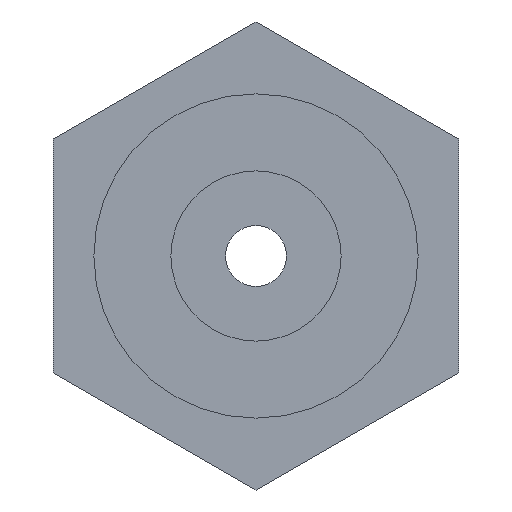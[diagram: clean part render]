
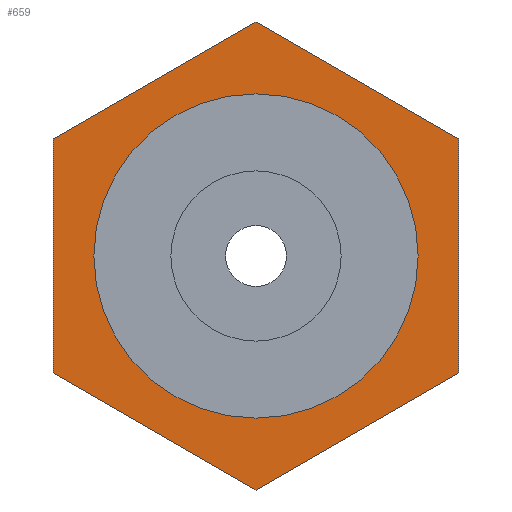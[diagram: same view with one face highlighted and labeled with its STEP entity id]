
A CAD part, front view. The second image highlights one B-rep face of the part: STEP entity #659.
In plain terms, the highlighted planar face has unit normal (0, -1, 0).
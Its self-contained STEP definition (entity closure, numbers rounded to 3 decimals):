
#360 = CYLINDRICAL_SURFACE('',#361,3.);
#361 = AXIS2_PLACEMENT_3D('',#362,#363,#364);
#362 = CARTESIAN_POINT('',(0.,70.,88.));
#363 = DIRECTION('',(0.,-1.,0.));
#364 = DIRECTION('',(0.,0.,-1.));
#432 = VERTEX_POINT('',#433);
#433 = CARTESIAN_POINT('',(0.,71.,85.));
#454 = EDGE_CURVE('',#432,#432,#455,.T.);
#455 = SURFACE_CURVE('',#456,(#461,#468),.PCURVE_S1.);
#456 = CIRCLE('',#457,3.);
#457 = AXIS2_PLACEMENT_3D('',#458,#459,#460);
#458 = CARTESIAN_POINT('',(0.,71.,88.));
#459 = DIRECTION('',(0.,-1.,0.));
#460 = DIRECTION('',(0.,0.,-1.));
#461 = PCURVE('',#360,#462);
#462 = DEFINITIONAL_REPRESENTATION('',(#463),#467);
#463 = LINE('',#464,#465);
#464 = CARTESIAN_POINT('',(-6.283,-1.));
#465 = VECTOR('',#466,1.);
#466 = DIRECTION('',(1.,-0.));
#467 = ( GEOMETRIC_REPRESENTATION_CONTEXT(2) 
PARAMETRIC_REPRESENTATION_CONTEXT() REPRESENTATION_CONTEXT('2D SPACE',''
  ) );
#468 = PCURVE('',#469,#474);
#469 = PLANE('',#470);
#470 = AXIS2_PLACEMENT_3D('',#471,#472,#473);
#471 = CARTESIAN_POINT('',(0.,71.,88.));
#472 = DIRECTION('',(0.,1.,0.));
#473 = DIRECTION('',(0.,0.,-1.));
#474 = DEFINITIONAL_REPRESENTATION('',(#475),#483);
#475 = ( BOUNDED_CURVE() B_SPLINE_CURVE(2,(#476,#477,#478,#479,#480,#481
,#482),.UNSPECIFIED.,.T.,.F.) B_SPLINE_CURVE_WITH_KNOTS((1,2,2,2,2,1),(
    -2.094,0.,2.094,4.189,6.283,
8.378),.UNSPECIFIED.) CURVE() GEOMETRIC_REPRESENTATION_ITEM() 
RATIONAL_B_SPLINE_CURVE((1.,0.5,1.,0.5,1.,0.5,1.)) REPRESENTATION_ITEM(
  '') );
#476 = CARTESIAN_POINT('',(3.,0.));
#477 = CARTESIAN_POINT('',(3.,-5.196));
#478 = CARTESIAN_POINT('',(-1.5,-2.598));
#479 = CARTESIAN_POINT('',(-6.,0.));
#480 = CARTESIAN_POINT('',(-1.5,2.598));
#481 = CARTESIAN_POINT('',(3.,5.196));
#482 = CARTESIAN_POINT('',(3.,0.));
#483 = ( GEOMETRIC_REPRESENTATION_CONTEXT(2) 
PARAMETRIC_REPRESENTATION_CONTEXT() REPRESENTATION_CONTEXT('2D SPACE',''
  ) );
#507 = PLANE('',#508);
#508 = AXIS2_PLACEMENT_3D('',#509,#510,#511);
#509 = CARTESIAN_POINT('',(0.,71.,82.226));
#510 = DIRECTION('',(0.5,0.,0.866));
#511 = DIRECTION('',(-0.866,0.,0.5));
#535 = PLANE('',#536);
#536 = AXIS2_PLACEMENT_3D('',#537,#538,#539);
#537 = CARTESIAN_POINT('',(-5.,71.,85.113));
#538 = DIRECTION('',(1.,0.,0.));
#539 = DIRECTION('',(0.,0.,1.));
#563 = PLANE('',#564);
#564 = AXIS2_PLACEMENT_3D('',#565,#566,#567);
#565 = CARTESIAN_POINT('',(-5.,71.,90.887));
#566 = DIRECTION('',(0.5,0.,-0.866));
#567 = DIRECTION('',(0.866,0.,0.5));
#591 = PLANE('',#592);
#592 = AXIS2_PLACEMENT_3D('',#593,#594,#595);
#593 = CARTESIAN_POINT('',(0.,71.,93.774));
#594 = DIRECTION('',(-0.5,0.,-0.866));
#595 = DIRECTION('',(0.866,0.,-0.5));
#619 = PLANE('',#620);
#620 = AXIS2_PLACEMENT_3D('',#621,#622,#623);
#621 = CARTESIAN_POINT('',(5.,71.,90.887));
#622 = DIRECTION('',(-1.,0.,0.));
#623 = DIRECTION('',(0.,0.,-1.));
#645 = PLANE('',#646);
#646 = AXIS2_PLACEMENT_3D('',#647,#648,#649);
#647 = CARTESIAN_POINT('',(5.,71.,85.113));
#648 = DIRECTION('',(-0.5,0.,0.866));
#649 = DIRECTION('',(-0.866,0.,-0.5));
#659 = ADVANCED_FACE('',(#660,#800),#469,.F.);
#660 = FACE_BOUND('',#661,.F.);
#661 = EDGE_LOOP('',(#662,#687,#710,#733,#756,#779));
#662 = ORIENTED_EDGE('',*,*,#663,.T.);
#663 = EDGE_CURVE('',#664,#666,#668,.T.);
#664 = VERTEX_POINT('',#665);
#665 = CARTESIAN_POINT('',(0.,71.,82.226));
#666 = VERTEX_POINT('',#667);
#667 = CARTESIAN_POINT('',(-5.,71.,85.113));
#668 = SURFACE_CURVE('',#669,(#673,#680),.PCURVE_S1.);
#669 = LINE('',#670,#671);
#670 = CARTESIAN_POINT('',(0.,71.,82.226));
#671 = VECTOR('',#672,1.);
#672 = DIRECTION('',(-0.866,0.,0.5));
#673 = PCURVE('',#469,#674);
#674 = DEFINITIONAL_REPRESENTATION('',(#675),#679);
#675 = LINE('',#676,#677);
#676 = CARTESIAN_POINT('',(5.774,0.));
#677 = VECTOR('',#678,1.);
#678 = DIRECTION('',(-0.5,0.866));
#679 = ( GEOMETRIC_REPRESENTATION_CONTEXT(2) 
PARAMETRIC_REPRESENTATION_CONTEXT() REPRESENTATION_CONTEXT('2D SPACE',''
  ) );
#680 = PCURVE('',#507,#681);
#681 = DEFINITIONAL_REPRESENTATION('',(#682),#686);
#682 = LINE('',#683,#684);
#683 = CARTESIAN_POINT('',(0.,-0.));
#684 = VECTOR('',#685,1.);
#685 = DIRECTION('',(1.,0.));
#686 = ( GEOMETRIC_REPRESENTATION_CONTEXT(2) 
PARAMETRIC_REPRESENTATION_CONTEXT() REPRESENTATION_CONTEXT('2D SPACE',''
  ) );
#687 = ORIENTED_EDGE('',*,*,#688,.T.);
#688 = EDGE_CURVE('',#666,#689,#691,.T.);
#689 = VERTEX_POINT('',#690);
#690 = CARTESIAN_POINT('',(-5.,71.,90.887));
#691 = SURFACE_CURVE('',#692,(#696,#703),.PCURVE_S1.);
#692 = LINE('',#693,#694);
#693 = CARTESIAN_POINT('',(-5.,71.,85.113));
#694 = VECTOR('',#695,1.);
#695 = DIRECTION('',(0.,0.,1.));
#696 = PCURVE('',#469,#697);
#697 = DEFINITIONAL_REPRESENTATION('',(#698),#702);
#698 = LINE('',#699,#700);
#699 = CARTESIAN_POINT('',(2.887,5.));
#700 = VECTOR('',#701,1.);
#701 = DIRECTION('',(-1.,0.));
#702 = ( GEOMETRIC_REPRESENTATION_CONTEXT(2) 
PARAMETRIC_REPRESENTATION_CONTEXT() REPRESENTATION_CONTEXT('2D SPACE',''
  ) );
#703 = PCURVE('',#535,#704);
#704 = DEFINITIONAL_REPRESENTATION('',(#705),#709);
#705 = LINE('',#706,#707);
#706 = CARTESIAN_POINT('',(0.,-0.));
#707 = VECTOR('',#708,1.);
#708 = DIRECTION('',(1.,0.));
#709 = ( GEOMETRIC_REPRESENTATION_CONTEXT(2) 
PARAMETRIC_REPRESENTATION_CONTEXT() REPRESENTATION_CONTEXT('2D SPACE',''
  ) );
#710 = ORIENTED_EDGE('',*,*,#711,.T.);
#711 = EDGE_CURVE('',#689,#712,#714,.T.);
#712 = VERTEX_POINT('',#713);
#713 = CARTESIAN_POINT('',(0.,71.,93.774));
#714 = SURFACE_CURVE('',#715,(#719,#726),.PCURVE_S1.);
#715 = LINE('',#716,#717);
#716 = CARTESIAN_POINT('',(-5.,71.,90.887));
#717 = VECTOR('',#718,1.);
#718 = DIRECTION('',(0.866,0.,0.5));
#719 = PCURVE('',#469,#720);
#720 = DEFINITIONAL_REPRESENTATION('',(#721),#725);
#721 = LINE('',#722,#723);
#722 = CARTESIAN_POINT('',(-2.887,5.));
#723 = VECTOR('',#724,1.);
#724 = DIRECTION('',(-0.5,-0.866));
#725 = ( GEOMETRIC_REPRESENTATION_CONTEXT(2) 
PARAMETRIC_REPRESENTATION_CONTEXT() REPRESENTATION_CONTEXT('2D SPACE',''
  ) );
#726 = PCURVE('',#563,#727);
#727 = DEFINITIONAL_REPRESENTATION('',(#728),#732);
#728 = LINE('',#729,#730);
#729 = CARTESIAN_POINT('',(0.,-0.));
#730 = VECTOR('',#731,1.);
#731 = DIRECTION('',(1.,0.));
#732 = ( GEOMETRIC_REPRESENTATION_CONTEXT(2) 
PARAMETRIC_REPRESENTATION_CONTEXT() REPRESENTATION_CONTEXT('2D SPACE',''
  ) );
#733 = ORIENTED_EDGE('',*,*,#734,.T.);
#734 = EDGE_CURVE('',#712,#735,#737,.T.);
#735 = VERTEX_POINT('',#736);
#736 = CARTESIAN_POINT('',(5.,71.,90.887));
#737 = SURFACE_CURVE('',#738,(#742,#749),.PCURVE_S1.);
#738 = LINE('',#739,#740);
#739 = CARTESIAN_POINT('',(0.,71.,93.774));
#740 = VECTOR('',#741,1.);
#741 = DIRECTION('',(0.866,0.,-0.5));
#742 = PCURVE('',#469,#743);
#743 = DEFINITIONAL_REPRESENTATION('',(#744),#748);
#744 = LINE('',#745,#746);
#745 = CARTESIAN_POINT('',(-5.774,0.));
#746 = VECTOR('',#747,1.);
#747 = DIRECTION('',(0.5,-0.866));
#748 = ( GEOMETRIC_REPRESENTATION_CONTEXT(2) 
PARAMETRIC_REPRESENTATION_CONTEXT() REPRESENTATION_CONTEXT('2D SPACE',''
  ) );
#749 = PCURVE('',#591,#750);
#750 = DEFINITIONAL_REPRESENTATION('',(#751),#755);
#751 = LINE('',#752,#753);
#752 = CARTESIAN_POINT('',(0.,-0.));
#753 = VECTOR('',#754,1.);
#754 = DIRECTION('',(1.,0.));
#755 = ( GEOMETRIC_REPRESENTATION_CONTEXT(2) 
PARAMETRIC_REPRESENTATION_CONTEXT() REPRESENTATION_CONTEXT('2D SPACE',''
  ) );
#756 = ORIENTED_EDGE('',*,*,#757,.T.);
#757 = EDGE_CURVE('',#735,#758,#760,.T.);
#758 = VERTEX_POINT('',#759);
#759 = CARTESIAN_POINT('',(5.,71.,85.113));
#760 = SURFACE_CURVE('',#761,(#765,#772),.PCURVE_S1.);
#761 = LINE('',#762,#763);
#762 = CARTESIAN_POINT('',(5.,71.,90.887));
#763 = VECTOR('',#764,1.);
#764 = DIRECTION('',(0.,0.,-1.));
#765 = PCURVE('',#469,#766);
#766 = DEFINITIONAL_REPRESENTATION('',(#767),#771);
#767 = LINE('',#768,#769);
#768 = CARTESIAN_POINT('',(-2.887,-5.));
#769 = VECTOR('',#770,1.);
#770 = DIRECTION('',(1.,0.));
#771 = ( GEOMETRIC_REPRESENTATION_CONTEXT(2) 
PARAMETRIC_REPRESENTATION_CONTEXT() REPRESENTATION_CONTEXT('2D SPACE',''
  ) );
#772 = PCURVE('',#619,#773);
#773 = DEFINITIONAL_REPRESENTATION('',(#774),#778);
#774 = LINE('',#775,#776);
#775 = CARTESIAN_POINT('',(0.,-0.));
#776 = VECTOR('',#777,1.);
#777 = DIRECTION('',(1.,0.));
#778 = ( GEOMETRIC_REPRESENTATION_CONTEXT(2) 
PARAMETRIC_REPRESENTATION_CONTEXT() REPRESENTATION_CONTEXT('2D SPACE',''
  ) );
#779 = ORIENTED_EDGE('',*,*,#780,.T.);
#780 = EDGE_CURVE('',#758,#664,#781,.T.);
#781 = SURFACE_CURVE('',#782,(#786,#793),.PCURVE_S1.);
#782 = LINE('',#783,#784);
#783 = CARTESIAN_POINT('',(5.,71.,85.113));
#784 = VECTOR('',#785,1.);
#785 = DIRECTION('',(-0.866,0.,-0.5));
#786 = PCURVE('',#469,#787);
#787 = DEFINITIONAL_REPRESENTATION('',(#788),#792);
#788 = LINE('',#789,#790);
#789 = CARTESIAN_POINT('',(2.887,-5.));
#790 = VECTOR('',#791,1.);
#791 = DIRECTION('',(0.5,0.866));
#792 = ( GEOMETRIC_REPRESENTATION_CONTEXT(2) 
PARAMETRIC_REPRESENTATION_CONTEXT() REPRESENTATION_CONTEXT('2D SPACE',''
  ) );
#793 = PCURVE('',#645,#794);
#794 = DEFINITIONAL_REPRESENTATION('',(#795),#799);
#795 = LINE('',#796,#797);
#796 = CARTESIAN_POINT('',(0.,-0.));
#797 = VECTOR('',#798,1.);
#798 = DIRECTION('',(1.,0.));
#799 = ( GEOMETRIC_REPRESENTATION_CONTEXT(2) 
PARAMETRIC_REPRESENTATION_CONTEXT() REPRESENTATION_CONTEXT('2D SPACE',''
  ) );
#800 = FACE_BOUND('',#801,.F.);
#801 = EDGE_LOOP('',(#802));
#802 = ORIENTED_EDGE('',*,*,#454,.T.);
